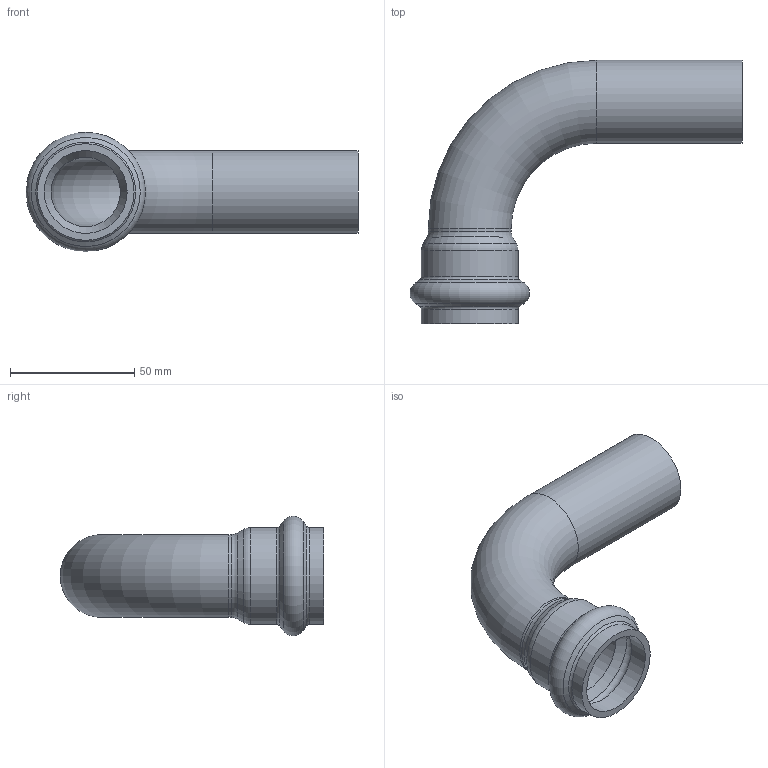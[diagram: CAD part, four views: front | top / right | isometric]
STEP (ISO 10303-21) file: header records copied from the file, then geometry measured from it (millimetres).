
FILE_DESCRIPTION(/* description */ ('VIC 90 DEG ST ELBOW STYLE P562 (P X T)','CAx-IF Rec.Pracs.---Representation and Presentation of Product Manufacturing Information (PMI)---4.0---2014-10-13'),/* implementation_level */ '2;1');
FILE_NAME(/* name */ 'C:\Users\kkamble\AppData\Roaming\Autodesk\ApplicationPlugins\Back Up\Victaulic_SS-Vic-Press-TP 316_Elbow Street 90 Deg_Style P562 (VPxPE)\Victaulic_SS-Vic-Press-TP 316_Elbow Street 90 Deg_Style P562 (VPxPE)_1 (25).stp',/* time_stamp */ '2020-08-14T14:07:20+06:00',/* author */ ('AAyare'),/* organization */ ('Victaulic'),/* preprocessor_version */ 'ST-DEVELOPER v17.2',/* originating_system */ 'Autodesk Inventor 2019',/* authorisation */ '');
FILE_SCHEMA (('AP242_MANAGED_MODEL_BASED_3D_ENGINEERING_MIM_LF { 1 0 10303 442 1 1 4 }'));
Length unit declared in the file: inch
Products named in the file (1): P562-01.0
Bounding box: 133.79 x 106.11 x 48.12 mm (x, y, z)
Volume: 51026.6 mm3; surface area: 37385.2 mm2
Topology: 1 solids, 1 shells, 24 faces, 82 edges, 60 vertices
Faces by surface type: torus 8, cylinder 8, cone 6, plane 2
Full cylindrical faces by diameter (mm): 27.864 x2, 33.401 x4, 38.938 x2
Entity records: 1098 total; most frequent: DIRECTION 226, CARTESIAN_POINT 184, ORIENTED_EDGE 164, AXIS2_PLACEMENT_3D 106, EDGE_CURVE 82, CIRCLE 68, VERTEX_POINT 60, EDGE_LOOP 26
